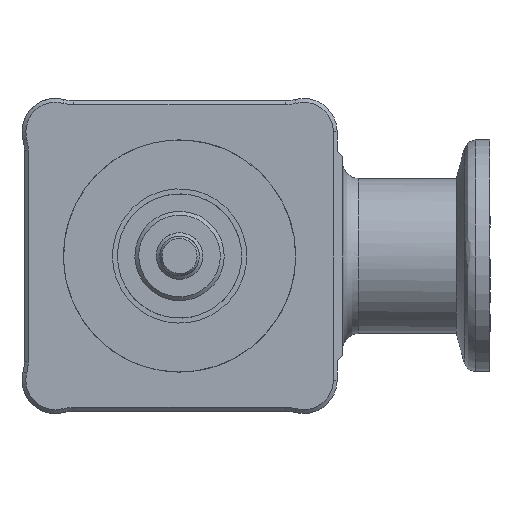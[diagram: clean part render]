
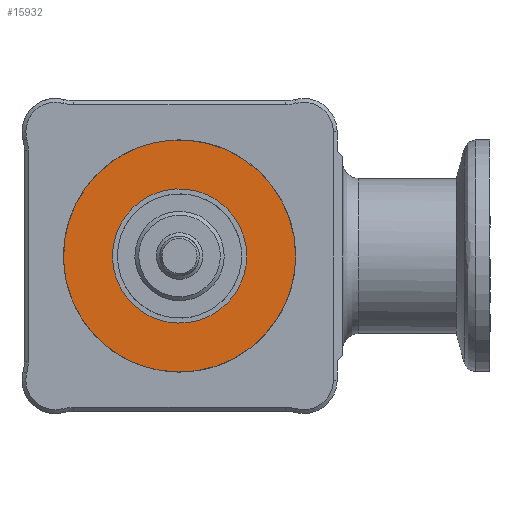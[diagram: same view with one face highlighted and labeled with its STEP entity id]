
A CAD part, front view. The second image highlights one B-rep face of the part: STEP entity #15932.
In plain terms, the highlighted free-form (B-spline) face has degree [1, 1] with [2, 2] control points.
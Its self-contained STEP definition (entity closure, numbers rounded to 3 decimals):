
#15874=CARTESIAN_POINT('V55',(14.956,-3.,
   0.0));
#15875=VERTEX_POINT('V55',#15874);
#15883=CARTESIAN_POINT('E74',(14.956,-3.,
   0.0));
#15884=CARTESIAN_POINT('E74',(14.956,-3.,
   25.905));
#15885=CARTESIAN_POINT('E74',(-7.478,-3.,
   12.952));
#15886=CARTESIAN_POINT('E74',(-29.912,-3.,
   0.));
#15887=CARTESIAN_POINT('E74',(-7.478,-3.,
   -12.952));
#15888=CARTESIAN_POINT('E74',(14.956,-3.,
   -25.905));
#15889=CARTESIAN_POINT('E74',(14.956,-3.,
   0.0));
#15897=(BOUNDED_CURVE()B_SPLINE_CURVE(2,(#15883,#15884,#15885,
   #15886,#15887,#15888,#15889),.CIRCULAR_ARC.,.T.,.U.)
   B_SPLINE_CURVE_WITH_KNOTS((3,2,2,3),(0.0,0.333,
   0.667,1.0),.UNSPECIFIED.)CURVE()
   GEOMETRIC_REPRESENTATION_ITEM()RATIONAL_B_SPLINE_CURVE((1.0,
   0.5,1.0,0.5,1.0,0.5,1.0)
   )REPRESENTATION_ITEM('E74'));
#15898=EDGE_CURVE('E74',#15875,#15875,#15897,.T.);
#15903=CARTESIAN_POINT('F33',(15.956,-3.0,
   -15.956));
#15904=CARTESIAN_POINT('F33',(15.956,-3.0,
   15.956));
#15905=CARTESIAN_POINT('F33',(-21.807,-3.0,
   -15.956));
#15906=CARTESIAN_POINT('F33',(-21.807,-3.0,
   15.956));
#15907=B_SPLINE_SURFACE_WITH_KNOTS('F33',1,1,((#15903,#15905),(
   #15904,#15906)),.PLANE_SURF.,.F.,.F.,.U.,(2,2),(2,2),(
   0.126,0.874),(0.599,
   1.485),.UNSPECIFIED.);
#15908=ORIENTED_EDGE('F29',*,*,#15898,.F.);
#15909=EDGE_LOOP('F33',(#15908));
#15910=FACE_OUTER_BOUND('F33',#15909,.F.);
#15911=CARTESIAN_POINT('V58',(8.65,-3.,
   0.0));
#15912=VERTEX_POINT('V58',#15911);
#15913=CARTESIAN_POINT('E79',(8.65,-3.,
   0.0));
#15914=CARTESIAN_POINT('E79',(8.65,-3.,
   -14.982));
#15915=CARTESIAN_POINT('E79',(-4.325,-3.,
   -7.491));
#15916=CARTESIAN_POINT('E79',(-17.3,-3.,
   0.));
#15917=CARTESIAN_POINT('E79',(-4.325,-3.,
   7.491));
#15918=CARTESIAN_POINT('E79',(8.65,-3.,
   14.982));
#15919=CARTESIAN_POINT('E79',(8.65,-3.,
   0.0));
#15927=(BOUNDED_CURVE()B_SPLINE_CURVE(2,(#15913,#15914,#15915,
   #15916,#15917,#15918,#15919),.CIRCULAR_ARC.,.T.,.U.)
   B_SPLINE_CURVE_WITH_KNOTS((3,2,2,3),(0.0,0.333,
   0.667,1.0),.UNSPECIFIED.)CURVE()
   GEOMETRIC_REPRESENTATION_ITEM()RATIONAL_B_SPLINE_CURVE((1.0,
   0.5,1.0,0.5,1.0,0.5,1.0)
   )REPRESENTATION_ITEM('E79'));
#15928=EDGE_CURVE('E79',#15912,#15912,#15927,.T.);
#15929=ORIENTED_EDGE('E79',*,*,#15928,.F.);
#15930=EDGE_LOOP('F33',(#15929));
#15931=FACE_BOUND('F33',#15930,.F.);
#15932=ADVANCED_FACE('F33',(#15910,#15931),#15907,.T.);
